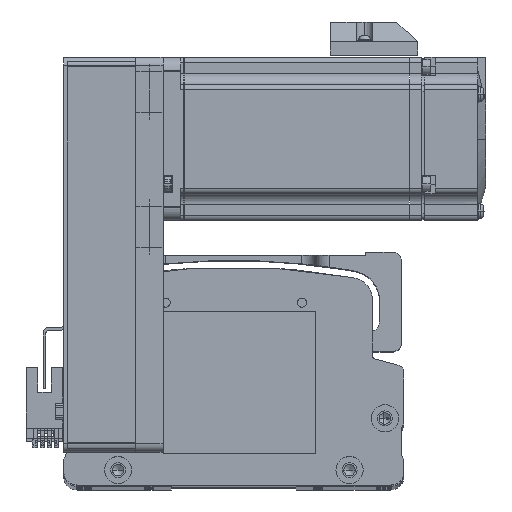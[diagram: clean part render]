
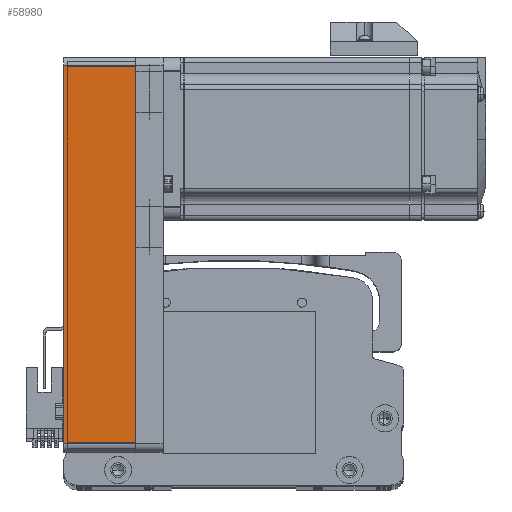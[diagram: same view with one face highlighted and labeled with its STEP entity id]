
A CAD part, top view. The second image highlights one B-rep face of the part: STEP entity #58980.
In plain terms, the highlighted planar face has unit normal (0, 0, 1) as drawn and (0, -1, 0) by its records, which use the part's own axes.
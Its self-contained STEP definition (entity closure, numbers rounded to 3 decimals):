
#2064 = CARTESIAN_POINT ( 'NONE',  ( -69.5, -30., 26.5 ) ) ;
#2505 = VERTEX_POINT ( 'NONE', #72633 ) ;
#4322 = VERTEX_POINT ( 'NONE', #73363 ) ;
#8244 = DIRECTION ( 'NONE',  ( 0., 0., 1. ) ) ;
#9135 = LINE ( 'NONE', #17807, #71575 ) ;
#9186 = EDGE_CURVE ( 'NONE', #21600, #2505, #67492, .T. ) ;
#10702 = CARTESIAN_POINT ( 'NONE',  ( 72.5, -30., 26.5 ) ) ;
#10960 = VECTOR ( 'NONE', #40990, 1000. ) ;
#12840 = LINE ( 'NONE', #22726, #10960 ) ;
#16766 = DIRECTION ( 'NONE',  ( -1., 0., 0. ) ) ;
#17807 = CARTESIAN_POINT ( 'NONE',  ( 72.5, -30., 0. ) ) ;
#18330 = EDGE_CURVE ( 'NONE', #20325, #2505, #31729, .T. ) ;
#20039 = EDGE_CURVE ( 'NONE', #20325, #4322, #12840, .T. ) ;
#20204 = AXIS2_PLACEMENT_3D ( 'NONE', #10702, #52964, #16766 ) ;
#20325 = VERTEX_POINT ( 'NONE', #2064 ) ;
#21600 = VERTEX_POINT ( 'NONE', #37752 ) ;
#22726 = CARTESIAN_POINT ( 'NONE',  ( -69.5, -30., 26.5 ) ) ;
#23890 = DIRECTION ( 'NONE',  ( 1., 0., 0. ) ) ;
#31729 = LINE ( 'NONE', #71584, #45927 ) ;
#31994 = EDGE_LOOP ( 'NONE', ( #51432, #75158, #35244, #43842 ) ) ;
#35244 = ORIENTED_EDGE ( 'NONE', *, *, #18330, .F. ) ;
#37752 = CARTESIAN_POINT ( 'NONE',  ( 69.5, -30., 0. ) ) ;
#40990 = DIRECTION ( 'NONE',  ( 0., 0., -1. ) ) ;
#43842 = ORIENTED_EDGE ( 'NONE', *, *, #20039, .T. ) ;
#45927 = VECTOR ( 'NONE', #59375, 1000. ) ;
#50525 = CARTESIAN_POINT ( 'NONE',  ( 69.5, -30., 26.5 ) ) ;
#51432 = ORIENTED_EDGE ( 'NONE', *, *, #56015, .T. ) ;
#51667 = FACE_OUTER_BOUND ( 'NONE', #31994, .T. ) ;
#52964 = DIRECTION ( 'NONE',  ( 0., 1., 0. ) ) ;
#56015 = EDGE_CURVE ( 'NONE', #4322, #21600, #9135, .T. ) ;
#58980 = ADVANCED_FACE ( 'NONE', ( #51667 ), #64870, .F. ) ;
#59375 = DIRECTION ( 'NONE',  ( 1., 0., 0. ) ) ;
#64870 = PLANE ( 'NONE',  #20204 ) ;
#65631 = VECTOR ( 'NONE', #8244, 1000. ) ;
#67492 = LINE ( 'NONE', #50525, #65631 ) ;
#71575 = VECTOR ( 'NONE', #23890, 1000. ) ;
#71584 = CARTESIAN_POINT ( 'NONE',  ( 72.5, -30., 26.5 ) ) ;
#72633 = CARTESIAN_POINT ( 'NONE',  ( 69.5, -30., 26.5 ) ) ;
#73363 = CARTESIAN_POINT ( 'NONE',  ( -69.5, -30., 0. ) ) ;
#75158 = ORIENTED_EDGE ( 'NONE', *, *, #9186, .T. ) ;
